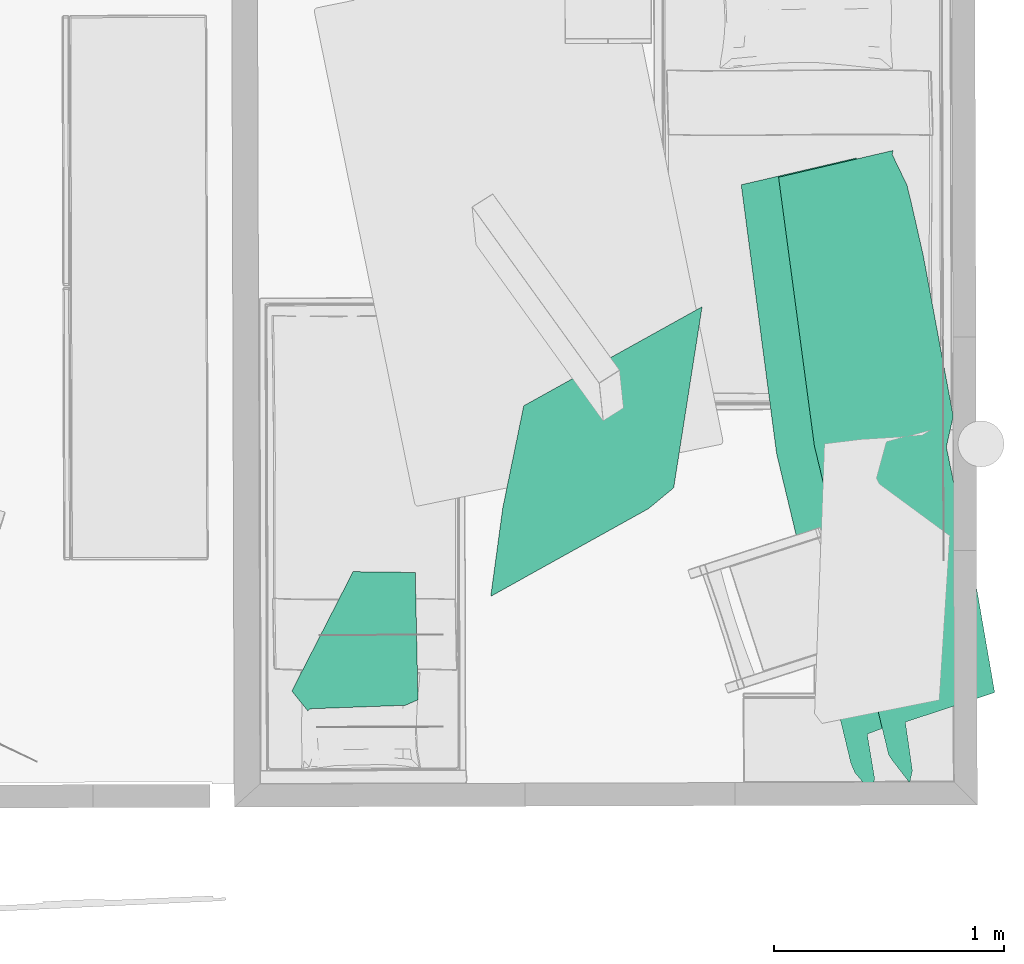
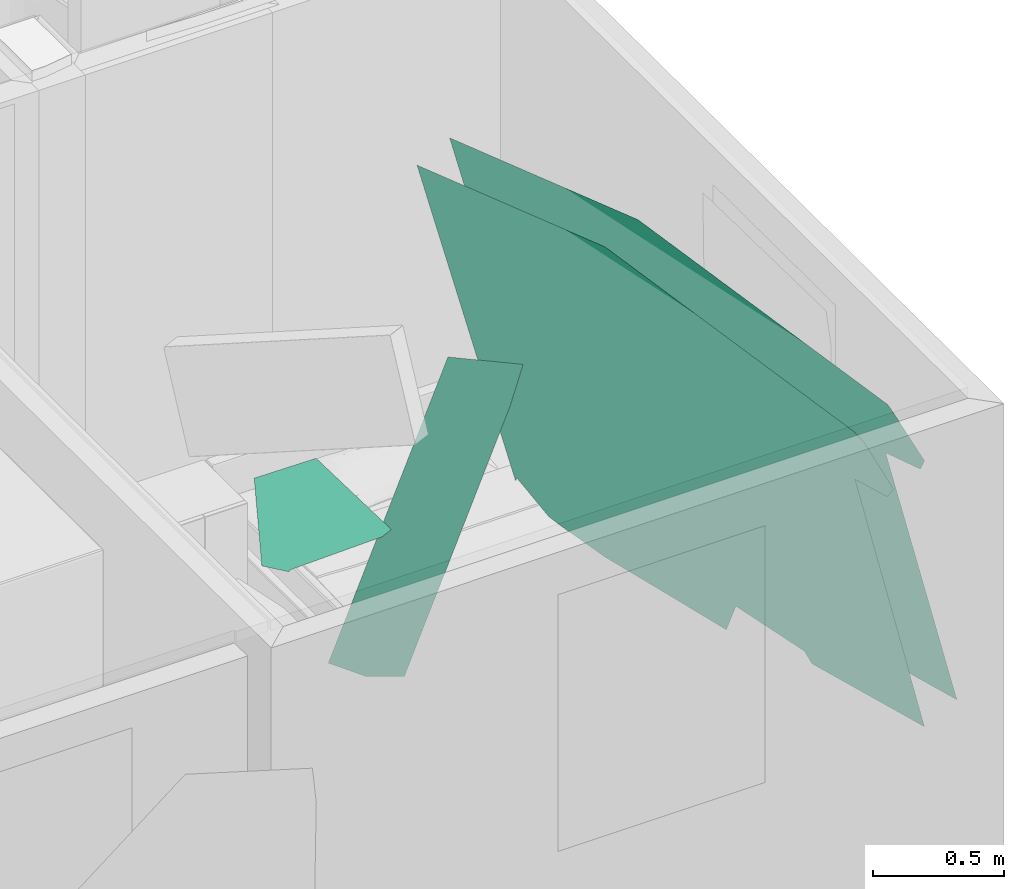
# One storey, part 3 of 15: 3 flow terminals, 1 energy conversion device.
"""IFC4 building model written with IfcOpenShell, lengths in metres."""

from ifc_helpers import new_model, si_unit, direction, frame, origin_with_axes, place, context, project, spatial, polygons, shape, element, save


model = new_model("IFC4")

# Units and contexts
model_context = context("Model", 3, precision=1e-05, world=origin_with_axes(), true_north=direction((-0.077, 0.997, 0.0)))
ifc_project = project(units=[si_unit("AREAUNIT", "SQUARE_METRE"), si_unit("LENGTHUNIT", "METRE")], contexts=[model_context])

# Site, building, storey, space
site_placement = place(None, origin_with_axes())
site = spatial("IfcSite", under=ifc_project, at=site_placement, Name="Site", CompositionType="ELEMENT")
building_placement = place(site_placement, origin_with_axes())
building = spatial("IfcBuilding", under=site, at=building_placement, Name="Building", CompositionType="ELEMENT")
storey_placement = place(building_placement, frame((0.0, 0.0, 5.71135139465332), z_axis=(0.0, 0.0, 1.0), x_axis=(1.0, 0.0, 0.0)))
storey = spatial("IfcBuildingStorey", under=building, at=storey_placement, Name="Story 2", CompositionType="ELEMENT", Elevation=5.71135139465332)
space_1_placement = place(storey_placement, frame((4.05763642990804, -5.18838181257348, 0.0), z_axis=(0.0, 0.0, 1.0), x_axis=(1.0, 0.0, 0.0)))
space_1 = spatial("IfcSpace", under=storey, at=space_1_placement, Name="015", CompositionType="ELEMENT")

# Flow terminal
flow_terminal_1_placement = place(space_1_placement, frame((0.322111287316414, 0.317198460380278, 2.48961925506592), z_axis=(0.0, 1.0, 0.0), x_axis=(1.0, 0.0, 0.0)))
element("IfcFlowTerminal", 1, at=flow_terminal_1_placement, inside=space_1, Name="sb1", shapes=[
    shape(model_context, None, "Tessellation", [polygons([(0.0, 0.0, -8.88178419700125e-16), (0.00764220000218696, 3.17037651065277e-06, 0.009838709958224), (0.423370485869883, 6.87367775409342e-05, 0.0250315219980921), (0.477976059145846, 8.18742242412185e-05, 0.0490412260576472), (0.466296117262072, 0.000193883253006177, 0.602457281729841), (0.195869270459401, 0.000153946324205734, 0.605773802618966), (-0.0701067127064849, 7.33106060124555e-06, 0.0868882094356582)], [[[1, 2, 7]], [[7, 2, 6]], [[3, 4, 6]], [[5, 6, 4]], [[3, 6, 2]]])]),
])

# Space
space_2_placement = place(storey_placement, frame((4.15984517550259, -1.64373686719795, 0.0), z_axis=(0.0, 0.0, 1.0), x_axis=(1.0, 0.0, 0.0)))
space_2 = spatial("IfcSpace", under=storey, at=space_2_placement, Name="016", CompositionType="ELEMENT")

# Flow terminals
flow_terminal_2_placement = place(space_2_placement, frame((2.74239378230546, -3.41790832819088, 2.49962902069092), z_axis=(-0.253916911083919, -0.172901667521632, 0.951646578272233), x_axis=(0.231883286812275, -0.966081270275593, -0.113653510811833)))
element("IfcFlowTerminal", 2, at=flow_terminal_2_placement, inside=space_2, Name="s1", shapes=[
    shape(model_context, None, "Tessellation", [polygons([(-2.22044604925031e-16, -1.77635683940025e-15, 1.77635683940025e-15), (0.0285463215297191, -1.77635683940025e-15, -0.0322446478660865), (0.163977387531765, 0.0, -0.211408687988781), (0.123363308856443, -1.77635683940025e-15, -0.295213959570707), (-0.082389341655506, -1.77635683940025e-15, -0.363462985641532), (0.0382646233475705, 0.0, -1.78042303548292), (-0.619648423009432, 0.0, -1.93008900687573), (-0.650310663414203, -1.77635683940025e-15, -1.89351700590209), (-1.03854581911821, 0.0, -1.93667691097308), (-1.13919283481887, 0.0, -2.14672606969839), (-1.51524593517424, 0.0, -2.21368532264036), (-1.84208019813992, 0.0, -2.27336647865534), (-2.09197883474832, 0.0, -2.28336925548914), (-2.15443495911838, 0.0, -2.28176597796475), (-2.31223785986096, 0.0, -2.17222263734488), (-2.32442060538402, -1.77635683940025e-15, -2.20163300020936), (-2.52250007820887, 0.0, -0.421193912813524), (-1.3909700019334, -1.77635683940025e-15, -9.41469124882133e-13)], [[[9, 18, 17]], [[15, 17, 16]], [[15, 11, 17]], [[1, 18, 5]], [[3, 2, 4]], [[5, 2, 1]], [[5, 4, 2]], [[5, 18, 8]], [[14, 13, 15]], [[12, 11, 15]], [[17, 11, 9]], [[9, 11, 10]], [[8, 6, 5]], [[18, 9, 8]], [[8, 7, 6]], [[15, 13, 12]]])]),
])
flow_terminal_3_placement = place(space_2_placement, frame((1.69897263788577, -2.34836381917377, 2.20967197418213), z_axis=(-0.00893061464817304, 0.745732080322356, -0.666186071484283), x_axis=(-0.63037006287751, -0.521362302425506, -0.575165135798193)))
element("IfcFlowTerminal", 3, at=flow_terminal_3_placement, inside=space_2, Name="s7", shapes=[
    shape(model_context, None, "Tessellation", [polygons([(-3.5527136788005e-15, -2.22044604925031e-16, -1.77635683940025e-15), (1.08306722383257, -6.66133814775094e-16, 0.246792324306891), (0.993893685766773, -2.22044604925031e-16, 0.699272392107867), (0.842530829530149, -8.88178419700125e-16, 1.18886163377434), (-0.382774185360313, -1.11022302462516e-15, 0.909070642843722), (-0.174203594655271, -1.55431223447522e-15, 0.0)], [[[5, 6, 1]], [[5, 1, 3]], [[5, 3, 4]], [[3, 1, 2]]])]),
])

# Energy conversion device
energy_conversion_device_placement = place(space_2_placement, frame((2.57760625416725, -3.45150388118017, 2.44940280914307), z_axis=(-0.255644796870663, -0.174078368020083, 0.950969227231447), x_axis=(0.231470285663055, -0.966066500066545, -0.114616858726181)))
element("IfcEnergyConversionDevice", 4, at=energy_conversion_device_placement, inside=space_2, Name="s5", shapes=[
    shape(model_context, None, "Tessellation", [polygons([(1.66533453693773e-15, -1.77635683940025e-15, 0.0), (0.0488051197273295, -1.77635683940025e-15, -0.0244446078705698), (0.174754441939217, 0.0, -0.207391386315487), (0.123428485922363, -1.77635683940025e-15, -0.295654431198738), (-0.0664276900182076, 0.0, -0.342848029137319), (0.0397917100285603, -1.77635683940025e-15, -1.78014591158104), (-0.618101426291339, 0.0, -1.93066654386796), (-0.650364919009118, -1.77635683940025e-15, -1.87944021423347), (-1.03992052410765, -1.77635683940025e-15, -1.92326302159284), (-1.13745192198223, -1.77635683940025e-15, -2.14767084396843), (-1.50240406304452, 0.0, -2.21303585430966), (-1.84035214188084, -1.77635683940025e-15, -2.27524286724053), (-2.09029807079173, -1.77635683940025e-15, -2.28562097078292), (-2.15273115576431, 0.0, -2.28399284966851), (-2.3104333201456, -1.77635683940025e-15, -2.17399016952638), (-2.32261829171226, 0.0, -2.20349285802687), (-2.52243786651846, -1.77635683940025e-15, -0.42411677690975), (-1.39060422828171, -1.77635683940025e-15, -5.60440582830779e-13)], [[[16, 15, 17]], [[14, 13, 15]], [[15, 13, 12]], [[18, 17, 9]], [[11, 9, 17]], [[9, 11, 10]], [[11, 17, 12]], [[17, 15, 12]], [[18, 9, 8]], [[8, 5, 18]], [[7, 6, 8]], [[8, 6, 5]], [[2, 1, 5]], [[4, 3, 2]], [[4, 2, 5]], [[18, 5, 1]]])]),
])

save(model, "model.ifc")
